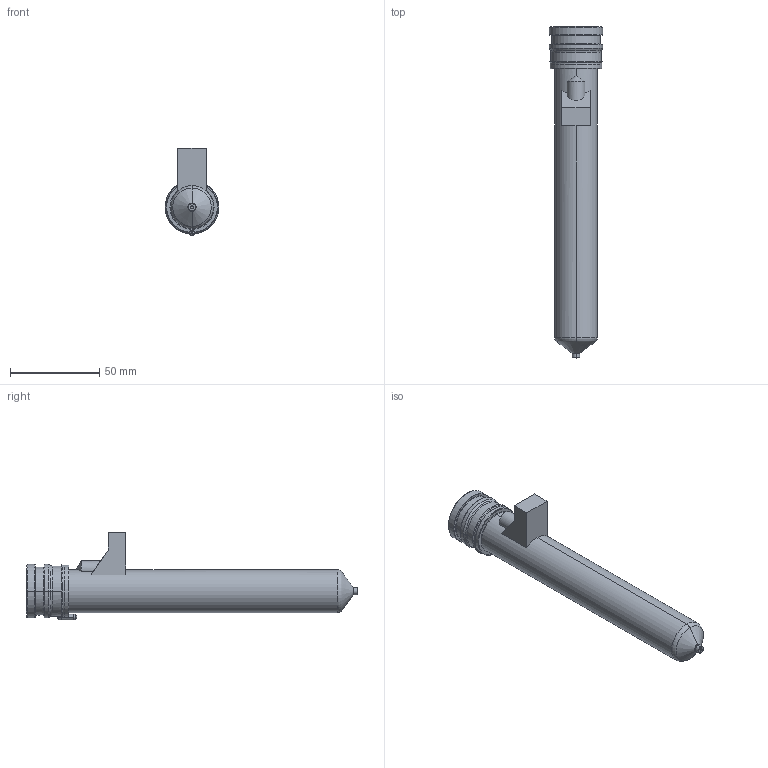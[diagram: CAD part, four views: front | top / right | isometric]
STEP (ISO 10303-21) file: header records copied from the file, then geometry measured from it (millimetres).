
FILE_DESCRIPTION((''),'2;1');
FILE_NAME('MPN-10-29-VP4-166-M','2026-02-05T12:59:31',('UPTIO'),('Thermoplay S.p.A.'),'CREO PARAMETRIC BY PTC INC, 2023494','CREO PARAMETRIC BY PTC INC, 2023494','');
FILE_SCHEMA(('CONFIG_CONTROL_DESIGN','SHAPE_APPEARANCE_LAYERS_GROUPS'));
Length unit declared in the file: millimetre
Products named in the file (1): MPN-10-29-VP4-166-M
Bounding box: 30 x 186.1 x 49 mm (x, y, z)
Volume: 58046.7 mm3; surface area: 59852 mm2
Topology: 3 solids, 5 shells, 570 faces, 1470 edges, 905 vertices
Faces by surface type: cylinder 177, plane 156, bspline 92, torus 69, cone 66, sphere 6, extrusion 4
Entity records: 30846 total; most frequent: CARTESIAN_POINT 14508, ORIENTED_EDGE 2926, DIRECTION 2618, EDGE_CURVE 1463, AXIS2_PLACEMENT_3D 1035, VERTEX_POINT 905, EDGE_LOOP 598, FACE_OUTER_BOUND 570
